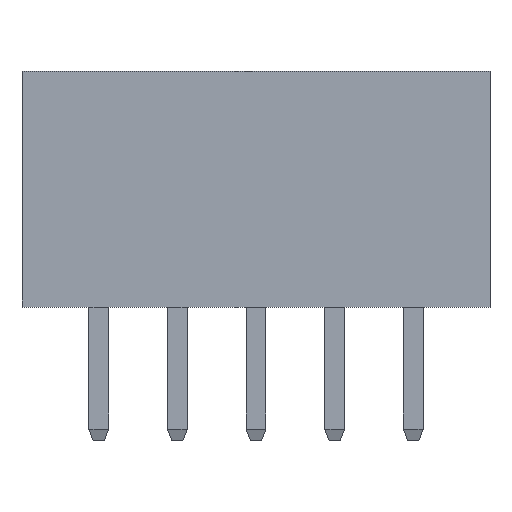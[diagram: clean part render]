
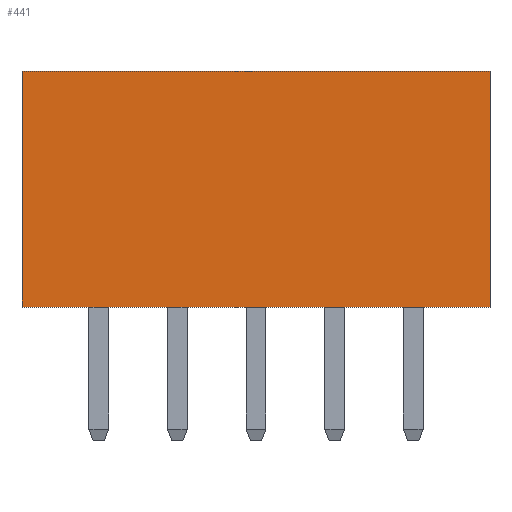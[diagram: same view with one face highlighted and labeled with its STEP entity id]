
A CAD part, top view. The second image highlights one B-rep face of the part: STEP entity #441.
In plain terms, the highlighted planar face has unit normal (0, 0, 1).
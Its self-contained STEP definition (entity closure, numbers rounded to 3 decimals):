
#409 = ORIENTED_EDGE ( 'NONE', *, *, #410, .T. ) ;
#410 = EDGE_CURVE ( 'NONE', #495, #445, #4522, .T. ) ;
#441 = ADVANCED_FACE ( 'NONE', ( #4357 ), #4356, .T. ) ;
#442 = EDGE_LOOP ( 'NONE', ( #443, #447, #493, #409 ) ) ;
#443 = ORIENTED_EDGE ( 'NONE', *, *, #444, .T. ) ;
#444 = EDGE_CURVE ( 'NONE', #445, #446, #4538, .T. ) ;
#445 = VERTEX_POINT ( 'NONE', #4534 ) ;
#446 = VERTEX_POINT ( 'NONE', #4533 ) ;
#447 = ORIENTED_EDGE ( 'NONE', *, *, #448, .F. ) ;
#448 = EDGE_CURVE ( 'NONE', #492, #446, #4532, .T. ) ;
#492 = VERTEX_POINT ( 'NONE', #4567 ) ;
#493 = ORIENTED_EDGE ( 'NONE', *, *, #494, .F. ) ;
#494 = EDGE_CURVE ( 'NONE', #495, #492, #4442, .T. ) ;
#495 = VERTEX_POINT ( 'NONE', #4438 ) ;
#4352 = DIRECTION ( 'NONE',  ( 0., -1., 0. ) ) ;
#4353 = DIRECTION ( 'NONE',  ( 0., 0., 1. ) ) ;
#4354 = CARTESIAN_POINT ( 'NONE',  ( -1.95, 6., 2.8 ) ) ;
#4355 = AXIS2_PLACEMENT_3D ( 'NONE', #4354, #4353, #4352 ) ;
#4356 = PLANE ( 'NONE',  #4355 ) ;
#4357 = FACE_OUTER_BOUND ( 'NONE', #442, .T. ) ;
#4438 = CARTESIAN_POINT ( 'NONE',  ( -1.95, 6., 2.8 ) ) ;
#4439 = DIRECTION ( 'NONE',  ( 1., 0., 0. ) ) ;
#4440 = VECTOR ( 'NONE', #4439, 1000. ) ;
#4441 = CARTESIAN_POINT ( 'NONE',  ( -1.95, 6., 2.8 ) ) ;
#4442 = LINE ( 'NONE', #4441, #4440 ) ;
#4462 = DIRECTION ( 'NONE',  ( 0., -1., 0. ) ) ;
#4463 = VECTOR ( 'NONE', #4462, 1000. ) ;
#4464 = CARTESIAN_POINT ( 'NONE',  ( -1.95, 6., 2.8 ) ) ;
#4522 = LINE ( 'NONE', #4464, #4463 ) ;
#4529 = DIRECTION ( 'NONE',  ( 0., -1., 0. ) ) ;
#4530 = VECTOR ( 'NONE', #4529, 1000. ) ;
#4531 = CARTESIAN_POINT ( 'NONE',  ( 9.95, 6., 2.8 ) ) ;
#4532 = LINE ( 'NONE', #4531, #4530 ) ;
#4533 = CARTESIAN_POINT ( 'NONE',  ( 9.95, 0., 2.8 ) ) ;
#4534 = CARTESIAN_POINT ( 'NONE',  ( -1.95, 0., 2.8 ) ) ;
#4535 = DIRECTION ( 'NONE',  ( 1., 0., 0. ) ) ;
#4536 = VECTOR ( 'NONE', #4535, 1000. ) ;
#4537 = CARTESIAN_POINT ( 'NONE',  ( -1.95, 0., 2.8 ) ) ;
#4538 = LINE ( 'NONE', #4537, #4536 ) ;
#4567 = CARTESIAN_POINT ( 'NONE',  ( 9.95, 6., 2.8 ) ) ;
